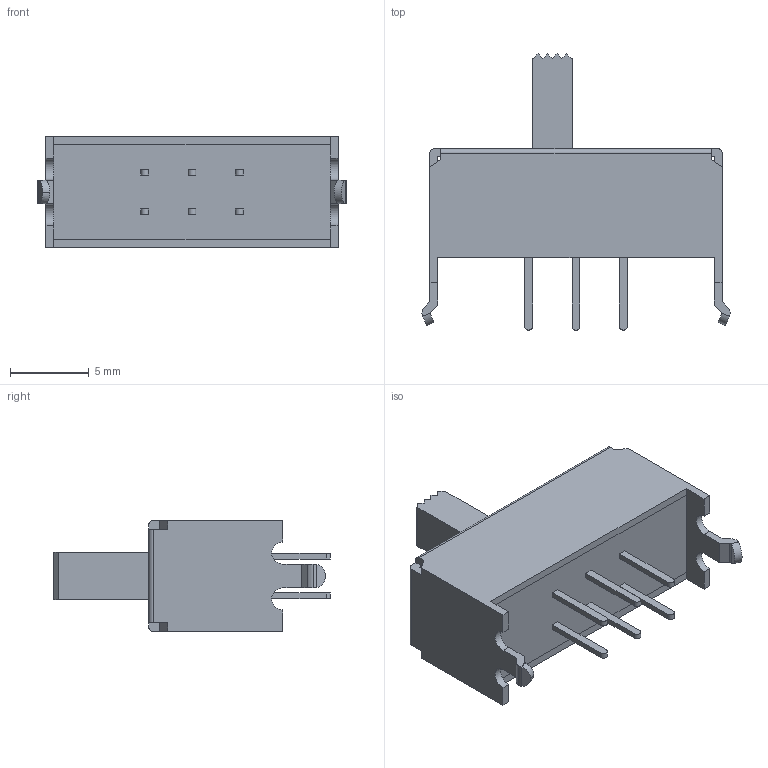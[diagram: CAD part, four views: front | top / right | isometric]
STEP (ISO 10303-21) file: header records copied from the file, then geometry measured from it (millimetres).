
FILE_DESCRIPTION (( 'STEP AP214' ), '1' );
FILE_NAME ('SSSU022400.STEP', '2011-04-04T06:34:14', ( '' ), ( '' ), 'SwSTEP 2.0', 'SolidWorks 2007', '' );
FILE_SCHEMA (( 'AUTOMOTIVE_DESIGN' ));
Length unit declared in the file: millimetre
Products named in the file (1): SSSU022400
Bounding box: 19.5 x 17.5 x 7 mm (x, y, z)
Volume: 942.2 mm3; surface area: 814.9 mm2
Topology: 1 solids, 1 shells, 115 faces, 322 edges, 212 vertices
Faces by surface type: plane 88, cylinder 27
Entity records: 4207 total; most frequent: CARTESIAN_POINT 650, ORIENTED_EDGE 644, DIRECTION 612, EDGE_CURVE 322, LINE 264, VECTOR 264, VERTEX_POINT 212, AXIS2_PLACEMENT_3D 174
